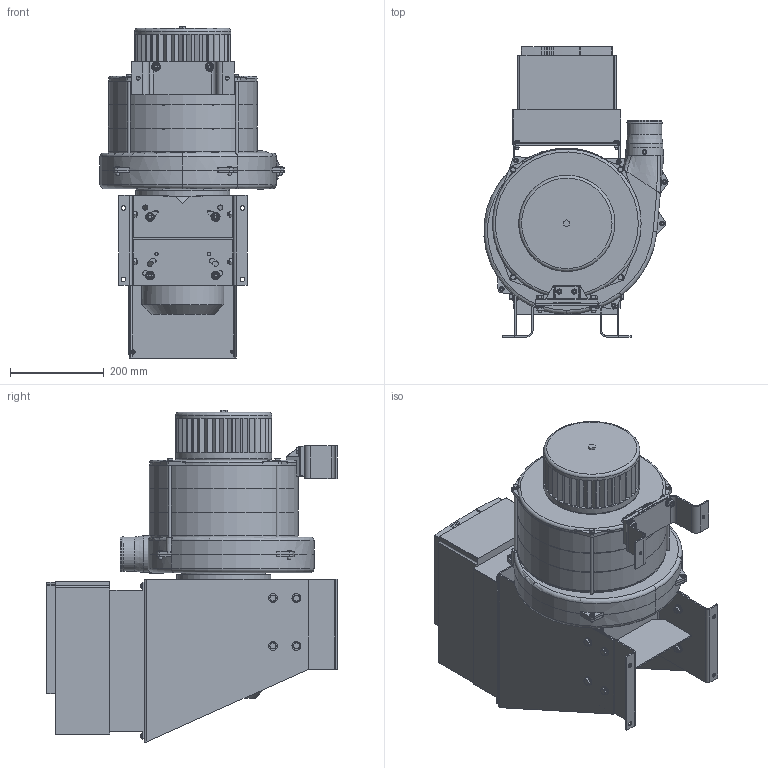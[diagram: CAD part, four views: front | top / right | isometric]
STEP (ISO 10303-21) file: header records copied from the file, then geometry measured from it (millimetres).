
FILE_DESCRIPTION(/* description */ (''),/* implementation_level */ '2;1');
FILE_NAME(/* name */ 'T:\Drawings\Standard Drawings\DATA Web Downloads\3D FILES\5MS11 + INV _ 3D12-0219.stp',/* time_stamp */ '2015-02-19T15:56:58+00:00',/* author */ ('mtinkler'),/* organization */ (''),/* preprocessor_version */ 'ST-DEVELOPER v15.6',/* originating_system */ 'Autodesk Inventor 2015',/* authorisation */ '');
FILE_SCHEMA (('AUTOMOTIVE_DESIGN { 1 0 10303 214 3 1 1 }'));
Products named in the file (1): 3D12-0219
Bounding box: 392.61 x 620.2 x 708.4 mm (x, y, z)
Volume: 29250578.1 mm3; surface area: 3841939.6 mm2
Topology: 127 solids, 127 shells, 2757 faces, 6511 edges, 4107 vertices
Faces by surface type: plane 1456, cone 533, cylinder 499, bspline 163, torus 99, sphere 7
Full cylindrical faces by diameter (mm): 4.134 x6, 4.51 x4, 4.8 x10, 4.917 x4, 5 x23, 5.5 x4, 5.6 x6, 6 x4, 6.647 x14, 7 x2, 7.938 x2, 8 x14, 8.2 x4, 8.376 x4, 8.9 x26, 9 x18, 9.5 x4, 10 x4, 11 x12, 16 x2, 18.8 x26, 19.5 x4, 42.85 x4, 71 x2, 73 x1, 76.4 x1, 78.4 x1, 88 x1, 130 x1, 131 x1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
Entity records: 87138 total; most frequent: CARTESIAN_POINT 25750, ORIENTED_EDGE 12108, DIRECTION 11505, EDGE_CURVE 6052, AXIS2_PLACEMENT_3D 4589, VERTEX_POINT 4047, EDGE_LOOP 3549, FACE_OUTER_BOUND 2757
